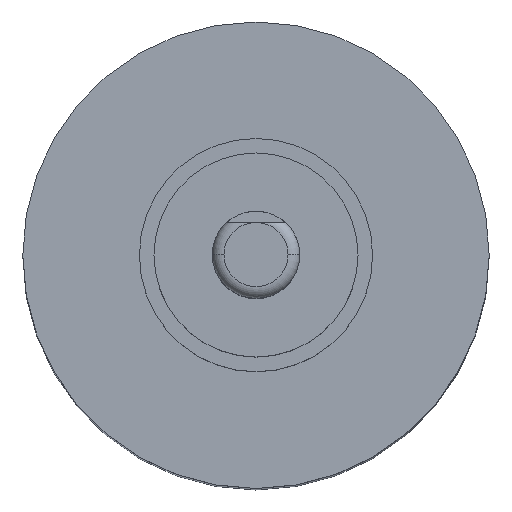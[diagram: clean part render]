
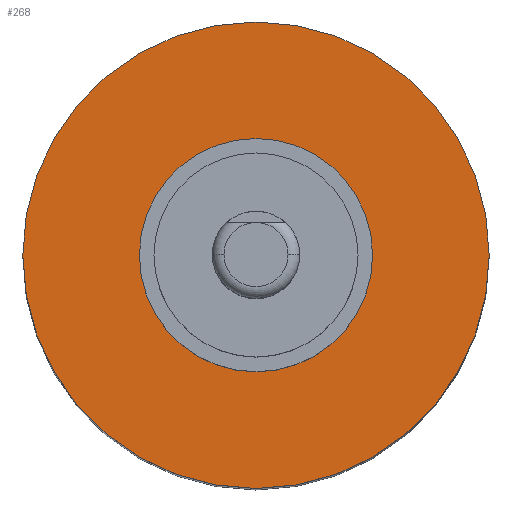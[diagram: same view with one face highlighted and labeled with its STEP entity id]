
A CAD part, top view. The second image highlights one B-rep face of the part: STEP entity #268.
In plain terms, the highlighted planar face has unit normal (0, 0, 1).
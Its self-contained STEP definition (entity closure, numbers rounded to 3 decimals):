
#14 = VERTEX_POINT ( 'NONE', #636 ) ;
#15 = DIRECTION ( 'NONE',  ( 0., -1., 0. ) ) ;
#45 = CIRCLE ( 'NONE', #500, 4. ) ;
#123 = ORIENTED_EDGE ( 'NONE', *, *, #830, .T. ) ;
#126 = AXIS2_PLACEMENT_3D ( 'NONE', #151, #916, #309 ) ;
#151 = CARTESIAN_POINT ( 'NONE',  ( 0., 0., -6. ) ) ;
#268 = ADVANCED_FACE ( 'NONE', ( #448 ), #846, .T. ) ;
#309 = DIRECTION ( 'NONE',  ( 0., -1., 0. ) ) ;
#323 = EDGE_LOOP ( 'NONE', ( #123, #524 ) ) ;
#380 = AXIS2_PLACEMENT_3D ( 'NONE', #383, #760, #533 ) ;
#383 = CARTESIAN_POINT ( 'NONE',  ( 0., 0., -6. ) ) ;
#448 = FACE_OUTER_BOUND ( 'NONE', #323, .T. ) ;
#463 = CARTESIAN_POINT ( 'NONE',  ( 0., 0., -6. ) ) ;
#484 = CIRCLE ( 'NONE', #126, 4. ) ;
#500 = AXIS2_PLACEMENT_3D ( 'NONE', #463, #926, #15 ) ;
#524 = ORIENTED_EDGE ( 'NONE', *, *, #818, .T. ) ;
#533 = DIRECTION ( 'NONE',  ( 0., -1., 0. ) ) ;
#564 = VERTEX_POINT ( 'NONE', #804 ) ;
#636 = CARTESIAN_POINT ( 'NONE',  ( 0., -4., -6. ) ) ;
#760 = DIRECTION ( 'NONE',  ( 0., 0., 1. ) ) ;
#804 = CARTESIAN_POINT ( 'NONE',  ( 0., 4., -6. ) ) ;
#818 = EDGE_CURVE ( 'NONE', #564, #14, #484, .T. ) ;
#830 = EDGE_CURVE ( 'NONE', #14, #564, #45, .T. ) ;
#846 = PLANE ( 'NONE',  #380 ) ;
#916 = DIRECTION ( 'NONE',  ( 0., 0., 1. ) ) ;
#926 = DIRECTION ( 'NONE',  ( 0., 0., 1. ) ) ;
